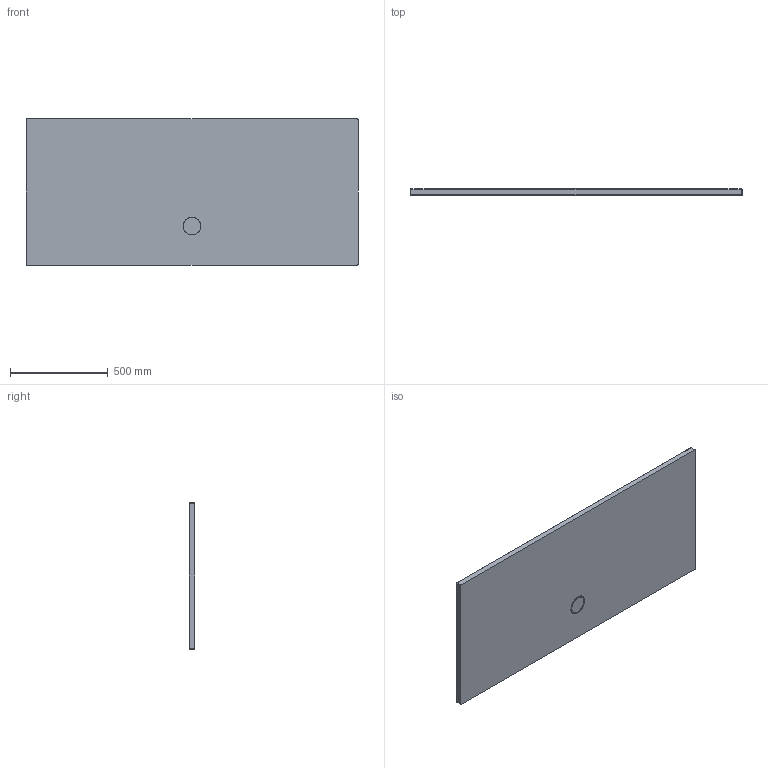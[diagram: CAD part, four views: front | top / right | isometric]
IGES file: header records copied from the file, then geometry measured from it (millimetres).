
Start section: SolidWorks IGES file using analytic representation for surfaces
Global section: file name: Y:\TKT\_PLIKI DLA ARCHITEKTÓW\02_AKRYL\BRODZIKI\seria SPACE MINERAL\IGS\B_M_75x170x1,5.IGS; native system: SolidWorks 2011; preprocessor: SolidWorks 2011; author: M.Szymanski; date: 180215.154917; units: millimetre
Bounding box: 1700 x 30 x 750 mm (x, y, z)
Surface area: 2709592.7 mm2 (no closed solid volume)
Topology: 0 solids, 0 shells, 61 faces, 737 edges, 734 vertices
Faces by surface type: bspline 39, revolution 22
